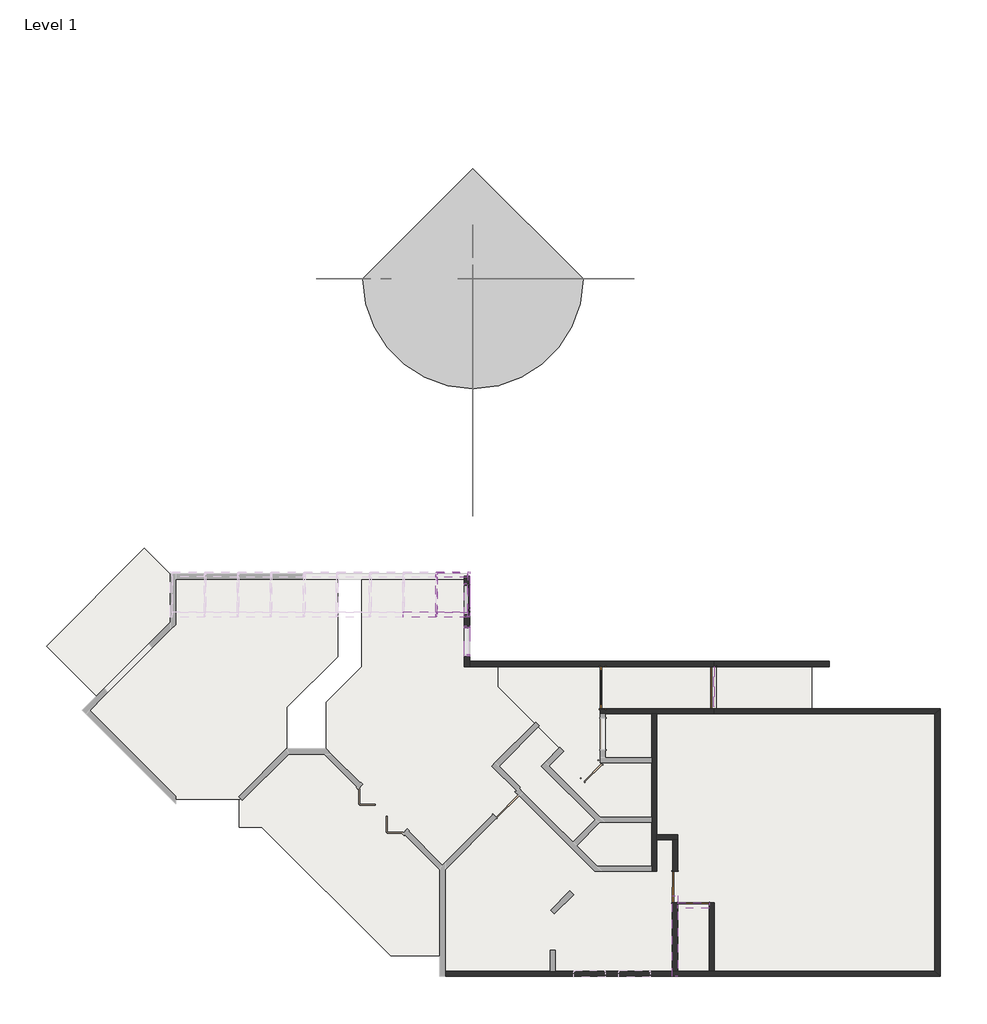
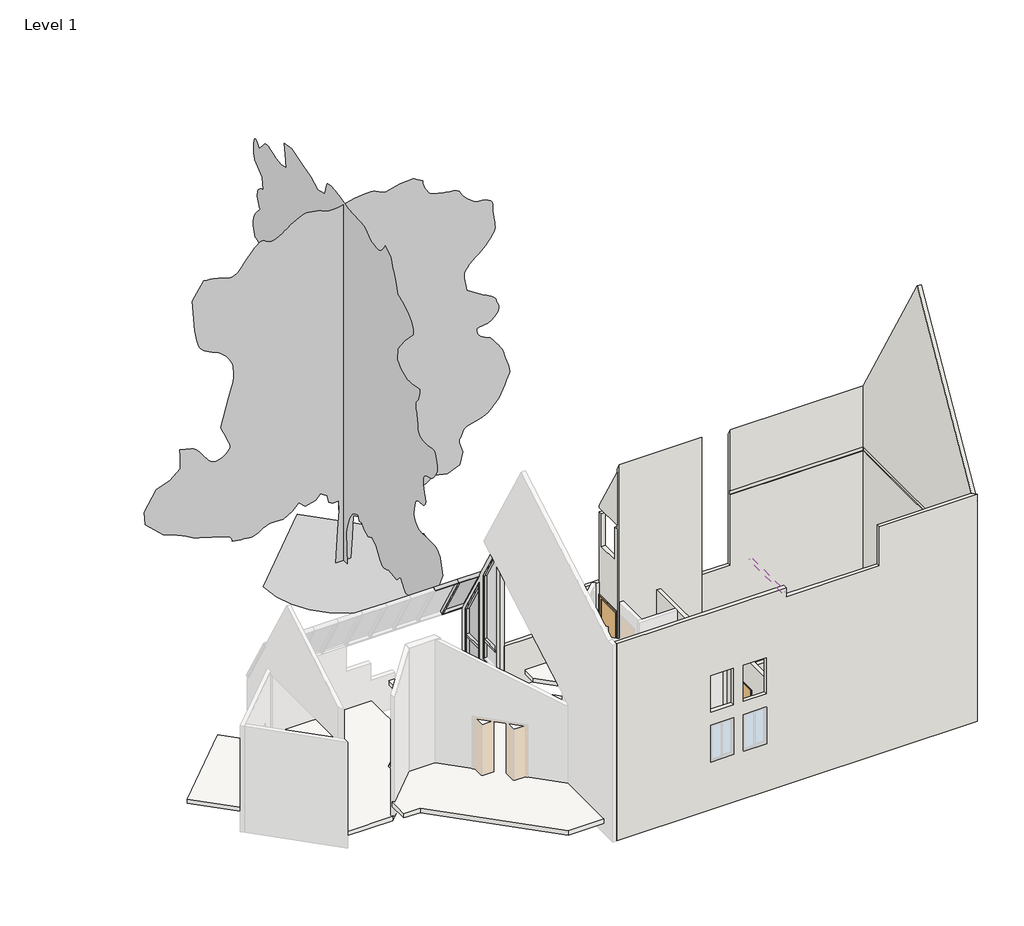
# One storey, part 2 of 2: 16 members, 14 walls, 4 doors, 4 plates, 3 slabs, 1 geographic element, 1 roof.
"""IFC4 building model written with IfcOpenShell, lengths in millimetres."""

from ifc_helpers import new_model, si_unit, frame, origin, place, context, project, spatial, polyline, outline, extrude, faceted_brep, transform, mapped, element, save
from components import door_120x210_caf2434f, m_single_flush_79bdf320, m_single_flush_02f8d604, m_single_flush_75c88c23, m_rpc_tree_conifer_5a218269, rectangular_mullion_50_x_150mm_060a51f6, rectangular_mullion_50_x_150mm_22f0c19d, rectangular_mullion_50_x_150mm_0c4aa80c, rectangular_mullion_50_x_150mm_8b0a0560, rectangular_mullion_50_x_150mm_82a77900, rectangular_mullion_50_x_150mm_25fb4bce, rectangular_mullion_50_x_150mm_666fa4ba, rectangular_mullion_50_x_150mm_cf5372f2, rectangular_mullion_50_x_150mm_7277cebd, rectangular_mullion_50_x_150mm_0d3281e4, rectangular_mullion_50_x_150mm_324a6438, rectangular_mullion_50_x_150mm_11b422a4, rectangular_mullion_9_x_15_9cd6746d, rectangular_mullion_9_x_15_09303af7, system_panel_glazed_92a7b472, system_panel_glazed_613df1e2, system_panel_glazed_8a160abd, system_panel_glazed_ca0c7ec9

model = new_model("IFC4")

# Units and contexts
model_context = context("Model", 3, world=origin())
ifc_project = project(units=[si_unit("LENGTHUNIT", "METRE", prefix="MILLI")], contexts=[model_context])

# Site, building, storey
site = spatial("IfcSite", under=ifc_project)
building = spatial("IfcBuilding", under=site)
storey = spatial("IfcBuildingStorey", under=building, Name="Level 1", Elevation=1200.0)

# Doors
placement = place(None, origin())
door_120x210_shape = door_120x210_caf2434f(model_context)
element("IfcDoor", 1, ObjectType="mydoor : 120x210", at=placement, inside=storey, context=model_context, shape_type="MappedRepresentation", body=[
    mapped(door_120x210_shape, transform((-1152.5128318, 8573.4820421, 1800.0), x_axis=(0.0, 0.9999999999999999, 0.0), y_axis=(-0.9999999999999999, 0.0, 0.0), z_axis=(0.0, 0.0, 1.0))),
])
m_single_flush_shape = m_single_flush_79bdf320(model_context)
element("IfcDoor", 2, ObjectType="M_Single-Flush : 120x210 室內", at=placement, inside=storey, context=model_context, shape_type="MappedRepresentation", body=[
    mapped(m_single_flush_shape, transform((2010.0683821, 8573.5856126, 1800.0), x_axis=(5.272766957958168e-05, 0.9999999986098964, 0.0), y_axis=(-0.9999999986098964, 5.272766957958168e-05, 0.0), z_axis=(0.0, 0.0, 1.0))),
])
m_single_flush_2_shape = m_single_flush_02f8d604(model_context)
element("IfcDoor", 3, ObjectType="M_Single-Flush : 90x210 室內", at=placement, inside=storey, context=model_context, shape_type="MappedRepresentation", body=[
    mapped(m_single_flush_2_shape, transform((1437.2401353, 2348.2782189, 1200.0), x_axis=(-0.9999999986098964, 5.2727669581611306e-05, 0.0), y_axis=(-5.2727669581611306e-05, -0.9999999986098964, 0.0), z_axis=(0.0, 0.0, 1.0))),
])
m_single_flush_3_shape = m_single_flush_75c88c23(model_context)
element("IfcDoor", 4, ObjectType="M_Single-Flush : 90x210 室內", at=placement, inside=storey, context=model_context, shape_type="MappedRepresentation", body=[
    mapped(m_single_flush_3_shape, transform((912.2678181, 2873.3059002, 1200.0), x_axis=(5.272766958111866e-05, 0.9999999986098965, 0.0), y_axis=(-0.9999999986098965, 5.272766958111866e-05, 0.0), z_axis=(0.0, 0.0, 1.0))),
])

# Geographic element
m_rpc_tree_conifer_shape = m_rpc_tree_conifer_5a218269(model_context)
element("IfcGeographicElement", 5, ObjectType="M_RPC Tree - Conifer : Colorado Spruce - 4.0 Meters", at=placement, inside=storey, context=model_context, shape_type="MappedRepresentation", body=[
    mapped(m_rpc_tree_conifer_shape, transform((-4864.3393643, 20260.7487516, -137.7926145), x_axis=(1.0, 0.0, 0.0), y_axis=(0.0, 1.0, 0.0), z_axis=(0.0, 0.0, 1.0))),
])

# Members
rectangular_mullion_50_x_150mm_shape = rectangular_mullion_50_x_150mm_060a51f6(model_context)
element("IfcMember", 6, ObjectType="Rectangular Mullion : 50 x 150mm", at=placement, inside=storey, context=model_context, shape_type="MappedRepresentation", body=[
    mapped(rectangular_mullion_50_x_150mm_shape, transform((-5012.322216, 10648.6183008, 5205.1596989), x_axis=(-2.6363906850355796e-05, -0.4999999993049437, 0.866025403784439), y_axis=(-4.566350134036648e-05, -0.866025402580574, -0.4999999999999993), z_axis=(0.9999999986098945, -5.272770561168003e-05, 6.24052315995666e-11))),
])
rectangular_mullion_50_x_150mm_2_shape = rectangular_mullion_50_x_150mm_22f0c19d(model_context)
element("IfcMember", 7, ObjectType="Rectangular Mullion : 50 x 150mm", at=placement, inside=storey, context=model_context, shape_type="MappedRepresentation", body=[
    mapped(rectangular_mullion_50_x_150mm_2_shape, transform((-5907.3222148, 10648.6654921, 5205.1596988), x_axis=(-2.6363906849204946e-05, -0.4999999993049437, 0.866025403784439), y_axis=(-4.56635013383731e-05, -0.866025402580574, -0.4999999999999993), z_axis=(0.9999999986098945, -5.272770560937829e-05, 6.240523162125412e-11))),
])
element("IfcMember", 8, ObjectType="Rectangular Mullion : 50 x 150mm", at=placement, inside=storey, context=model_context, shape_type="MappedRepresentation", body=[
    mapped(rectangular_mullion_50_x_150mm_shape, transform((-5907.2602598, 11823.6654905, 3170.0), x_axis=(2.636383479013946e-05, 0.4999999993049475, -0.866025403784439), y_axis=(-4.56635013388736e-05, -0.866025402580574, -0.4999999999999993), z_axis=(-0.9999999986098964, 5.2727669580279e-05, 0.0))),
])
rectangular_mullion_50_x_150mm_3_shape = rectangular_mullion_50_x_150mm_0c4aa80c(model_context)
element("IfcMember", 9, ObjectType="Rectangular Mullion : 50 x 150mm", at=placement, inside=storey, context=model_context, shape_type="MappedRepresentation", body=[
    mapped(rectangular_mullion_50_x_150mm_3_shape, transform((-5907.3208966, 10673.6654921, 5161.8584286), x_axis=(-0.9999999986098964, 5.272766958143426e-05, 0.0), y_axis=(-4.566350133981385e-05, -0.8660254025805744, -0.49999999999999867), z_axis=(-2.6363834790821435e-05, -0.4999999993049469, 0.8660254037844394))),
])
rectangular_mullion_50_x_150mm_4_shape = rectangular_mullion_50_x_150mm_8b0a0560(model_context)
element("IfcMember", 10, ObjectType="Rectangular Mullion : 50 x 150mm", at=placement, inside=storey, context=model_context, shape_type="MappedRepresentation", body=[
    mapped(rectangular_mullion_50_x_150mm_4_shape, transform((-4962.2602611, 11823.6156628, 3170.0), x_axis=(0.9999999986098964, -5.272766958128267e-05, 0.0), y_axis=(-4.566350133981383e-05, -0.8660254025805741, -0.49999999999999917), z_axis=(2.636383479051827e-05, 0.4999999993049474, -0.8660254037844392))),
])
rectangular_mullion_50_x_150mm_5_shape = rectangular_mullion_50_x_150mm_82a77900(model_context)
element("IfcMember", 11, ObjectType="Rectangular Mullion : 50 x 150mm", at=placement, inside=storey, context=model_context, shape_type="MappedRepresentation", body=[
    mapped(rectangular_mullion_50_x_150mm_5_shape, transform((-5037.3846077, 10335.3746534, 5357.7090458), x_axis=(0.0, 0.8660254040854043, 0.49999999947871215), y_axis=(1.0, 0.0, 0.0), z_axis=(0.0, 0.49999999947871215, -0.8660254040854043))),
])
rectangular_mullion_50_x_150mm_6_shape = rectangular_mullion_50_x_150mm_25fb4bce(model_context)
element("IfcMember", 12, ObjectType="Rectangular Mullion : 50 x 150mm", at=placement, inside=storey, context=model_context, shape_type="MappedRepresentation", body=[
    mapped(rectangular_mullion_50_x_150mm_6_shape, transform((-5037.3246305, 11548.6196178, 3256.3071226), x_axis=(0.0, 0.8660254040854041, 0.49999999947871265), y_axis=(1.0, 0.0, 0.0), z_axis=(0.0, 0.49999999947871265, -0.8660254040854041))),
])
rectangular_mullion_50_x_150mm_7_shape = rectangular_mullion_50_x_150mm_666fa4ba(model_context)
element("IfcMember", 13, ObjectType="Rectangular Mullion : 50 x 150mm", at=placement, inside=storey, context=model_context, shape_type="MappedRepresentation", body=[
    mapped(rectangular_mullion_50_x_150mm_7_shape, transform((-5037.3846077, 10335.3746534, 2700.0), x_axis=(0.0, 1.0, 0.0), y_axis=(1.0, 0.0, 0.0), z_axis=(0.0, 0.0, -1.0))),
])
rectangular_mullion_50_x_150mm_8_shape = rectangular_mullion_50_x_150mm_cf5372f2(model_context)
element("IfcMember", 14, ObjectType="Rectangular Mullion : 50 x 150mm", at=placement, inside=storey, context=model_context, shape_type="MappedRepresentation", body=[
    mapped(rectangular_mullion_50_x_150mm_8_shape, transform((-5037.3246305, 10602.8285283, 4894.4653451), x_axis=(0.0, -1.0, 0.0), y_axis=(1.0, 0.0, 0.0), z_axis=(0.0, 0.0, 1.0))),
])
rectangular_mullion_50_x_150mm_9_shape = rectangular_mullion_50_x_150mm_7277cebd(model_context)
element("IfcMember", 15, ObjectType="Rectangular Mullion : 50 x 150mm", at=placement, inside=storey, context=model_context, shape_type="MappedRepresentation", body=[
    mapped(rectangular_mullion_50_x_150mm_9_shape, transform((-5037.3246305, 11548.6196178, 2166.0902111), x_axis=(0.0, 1.0, 0.0), y_axis=(1.0, 0.0, 0.0), z_axis=(0.0, 0.0, -1.0))),
])
rectangular_mullion_50_x_150mm_10_shape = rectangular_mullion_50_x_150mm_0d3281e4(model_context)
element("IfcMember", 16, ObjectType="Rectangular Mullion : 50 x 150mm", at=placement, inside=storey, context=model_context, shape_type="MappedRepresentation", body=[
    mapped(rectangular_mullion_50_x_150mm_10_shape, transform((-5037.3846077, 10335.3746534, 1950.0), x_axis=(0.0, 1.0, 0.0), y_axis=(1.0, 0.0, 0.0), z_axis=(0.0, 0.0, -1.0))),
])
rectangular_mullion_50_x_150mm_11_shape = rectangular_mullion_50_x_150mm_324a6438(model_context)
element("IfcMember", 17, ObjectType="Rectangular Mullion : 50 x 150mm", at=placement, inside=storey, context=model_context, shape_type="MappedRepresentation", body=[
    mapped(rectangular_mullion_50_x_150mm_11_shape, transform((-5037.3246305, 10602.8285283, 2166.0902111), x_axis=(0.0, -1.0, 0.0), y_axis=(1.0, 0.0, 0.0), z_axis=(0.0, 0.0, 1.0))),
])
rectangular_mullion_50_x_150mm_12_shape = rectangular_mullion_50_x_150mm_11b422a4(model_context)
element("IfcMember", 18, ObjectType="Rectangular Mullion : 50 x 150mm", at=placement, inside=storey, context=model_context, shape_type="MappedRepresentation", body=[
    mapped(rectangular_mullion_50_x_150mm_12_shape, transform((-5037.3246305, 10602.8285283, 1266.0902111), x_axis=(0.0, 0.0, -1.0), y_axis=(1.0, 0.0, 0.0), z_axis=(0.0, -1.0, 0.0))),
])
element("IfcMember", 19, ObjectType="Rectangular Mullion : 50 x 150mm", at=placement, inside=storey, context=model_context, shape_type="MappedRepresentation", body=[
    mapped(rectangular_mullion_50_x_150mm_11_shape, transform((-5037.3246305, 11548.6196178, 1316.0902111), x_axis=(0.0, 1.0, 0.0), y_axis=(1.0, 0.0, 0.0), z_axis=(0.0, 0.0, -1.0))),
])
rectangular_mullion_9_x_15_shape = rectangular_mullion_9_x_15_9cd6746d(model_context)
element("IfcMember", 20, ObjectType="Rectangular Mullion : 9 x 15", at=placement, inside=storey, context=model_context, shape_type="MappedRepresentation", body=[
    mapped(rectangular_mullion_9_x_15_shape, transform((-5037.3846077, 10285.3746534, 2700.0), x_axis=(0.0, 0.0, 1.0), y_axis=(1.0, 0.0, 0.0), z_axis=(0.0, 1.0, 0.0))),
])
rectangular_mullion_9_x_15_2_shape = rectangular_mullion_9_x_15_09303af7(model_context)
element("IfcMember", 21, ObjectType="Rectangular Mullion : 9 x 15", at=placement, inside=storey, context=model_context, shape_type="MappedRepresentation", body=[
    mapped(rectangular_mullion_9_x_15_2_shape, transform((-5037.3246305, 11498.6196178, 2166.0902111), x_axis=(0.0, 0.0, 1.0), y_axis=(1.0, 0.0, 0.0), z_axis=(0.0, 1.0, 0.0))),
])

# Plates
system_panel_glazed_shape = system_panel_glazed_92a7b472(model_context)
element("IfcPlate", 22, ObjectType="System Panel : Glazed", at=placement, inside=storey, context=model_context, shape_type="MappedRepresentation", body=[
    mapped(system_panel_glazed_shape, transform((1962.5696825, 8598.2492759, 4450.0), x_axis=(-5.2727669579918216e-05, -0.9999999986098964, 0.0), y_axis=(0.9999999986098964, -5.2727669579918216e-05, 0.0), z_axis=(0.0, 0.0, 1.0))),
])
system_panel_glazed_2_shape = system_panel_glazed_613df1e2(model_context)
element("IfcPlate", 23, ObjectType="System Panel : Glazed", at=placement, inside=storey, context=model_context, shape_type="MappedRepresentation", body=[
    mapped(system_panel_glazed_2_shape, transform((-5447.2615786, 11798.6412358, 3213.3012702), x_axis=(-0.9999999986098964, 5.2727669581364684e-05, 0.0), y_axis=(-4.566350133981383e-05, -0.866025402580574, -0.4999999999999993), z_axis=(-2.6363834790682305e-05, -0.4999999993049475, 0.866025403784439))),
])
system_panel_glazed_3_shape = system_panel_glazed_8a160abd(model_context)
element("IfcPlate", 24, ObjectType="System Panel : Glazed", at=placement, inside=storey, context=model_context, shape_type="MappedRepresentation", body=[
    mapped(system_panel_glazed_3_shape, transform((-5037.3246305, 11075.724073, 1316.0902111), x_axis=(0.0, 1.0, 0.0), y_axis=(-1.0, 0.0, 0.0), z_axis=(0.0, 0.0, 1.0))),
])
system_panel_glazed_4_shape = system_panel_glazed_ca0c7ec9(model_context)
element("IfcPlate", 25, ObjectType="System Panel : Glazed", at=placement, inside=storey, context=model_context, shape_type="MappedRepresentation", body=[
    mapped(system_panel_glazed_4_shape, transform((-5037.3246305, 11075.724073, 2211.0902111), x_axis=(0.0, 1.0, 0.0), y_axis=(-1.0, 0.0, 0.0), z_axis=(0.0, 0.0, 1.0))),
])

# Roof
element("IfcRoof", 26, ObjectType="15cm", at=placement, inside=storey, context=model_context, shape_type="SweptSolid", body=[
    extrude(outline(polyline([(2300.0, -8912.6577053), (0.0, -7584.7520861), (0.0, -7400.0), (2300.0, -8727.9056191), (2300.0, -8912.6577053)])), frame((987.1333624, 323.3019492, 1200.0), z_axis=(-0.9999999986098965, 5.2727669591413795e-05, 0.0), x_axis=(5.2727669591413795e-05, 0.9999999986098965, 0.0)), (0.0, 0.0, 1.0), 150.0),
])

# Slabs
element("IfcSlab", 27, ObjectType="Generic 150mm", at=placement, inside=storey, context=model_context, shape_type="SweptSolid", body=[
    extrude(outline(polyline([(-4147.7516387, 9243.5727121), (4812.6036879, 9243.1002534), (4812.5325234, 7893.4378442), (317.5325296, 7893.6748551), (317.369056, 4793.3372705), (-1270.7157257, 4793.4210065), (-2810.1276916, 6332.9953202), (-2346.9483295, 6796.1258401), (-4147.7857229, 8597.1531514), (-4147.7516387, 9243.5727121)])), frame((0.0, 0.0, 1630.0), z_axis=(0.0, 0.0, 1.0), x_axis=(1.0, 0.0, 0.0)), (0.0, 0.0, 1.0), 170.0),
])
element("IfcSlab", 28, ObjectType="Generic 150mm", at=placement, inside=storey, context=model_context, shape_type="SweptSolid", body=[
    extrude(outline(polyline([(-5742.8629373, 393.6568063), (-5742.8352553, 918.6568056), (-7219.3071158, 918.7346565), (-10898.7586152, 4582.2129417), (-11547.2867517, 4582.2471371), (-11547.2457203, 5360.4217291), (-10163.6316357, 6743.8899119), (-9061.4620948, 6743.8317971), (-9061.3879562, 8149.8978123), (-8042.4002488, 9168.7780677), (-8042.264475, 11743.7780642), (-5042.2644792, 11743.6198811), (-5042.3962984, 9243.6198846), (-4117.3962997, 9243.5711115), (-4117.428256, 8637.5068899), (-2290.3790414, 6810.264993), (-2767.7012848, 6332.9930831), (-1258.287737, 4823.4203512), (287.3706379, 4823.3388523), (287.5325297, 7893.6764369), (8407.5325184, 7893.2482882), (8407.1370431, 392.9107098), (-5742.8629373, 393.6568063)])), frame((0.0, 0.0, 1030.0), z_axis=(0.0, 0.0, 1.0), x_axis=(1.0, 0.0, 0.0)), (0.0, 0.0, 1.0), 170.0),
])
element("IfcSlab", 29, ObjectType="Generic 150mm", at=placement, inside=storey, context=model_context, shape_type="SweptSolid", body=[
    extrude(outline(polyline([(-11523.4576696, 5384.2072714), (-13386.7707808, 5384.3055195), (-15919.8038802, 7917.6057549), (-15562.6961277, 8274.6758504), (-17048.5775489, 9760.713974), (-14251.0563196, 12557.9402052), (-13437.2644675, 11744.0625299), (-8723.1223385, 11743.8139642), (-8723.2428238, 9458.763461), (-10182.5597379, 8011.670863), (-10182.6275866, 6724.8959642), (-11523.4576696, 5384.2072714)])), frame((0.0, 0.0, 430.0), z_axis=(0.0, 0.0, 1.0), x_axis=(1.0, 0.0, 0.0)), (0.0, 0.0, 1.0), 170.0),
])

# Walls
element("IfcWall", 30, ObjectType="15cm室內", at=placement, inside=storey, context=model_context, shape_type="Brep", body=[
    faceted_brep([(237.5288161, 7823.2480246, 1200.0), (237.4629114, 6573.3414862, 1200.0), (237.4550023, 6423.3414864, 1200.0), (237.3732744, 4873.3414886, 1200.0), (237.3653652, 4723.3414888, 1200.0), (237.2994556, 3473.3414905, 1200.0), (237.2915465, 3323.3414908, 1200.0), (237.2915465, 3323.3414908, 4400.0), (237.2994556, 3473.3414905, 4400.0), (237.3653652, 4723.3414888, 4400.0), (237.3732744, 4873.3414886, 4400.0), (237.4550023, 6423.3414864, 4400.0), (237.4629114, 6573.3414862, 4400.0), (237.5288161, 7823.2480246, 4400.0), (387.5288163, 7823.2480246, 1200.0), (387.5288163, 7823.2480246, 4400.0), (387.3469103, 4373.3335801, 4400.0), (387.3390012, 4223.3335804, 4400.0), (387.2915463, 3323.3335816, 4400.0), (387.2915463, 3323.3335816, 1200.0), (387.3390012, 4223.3335804, 1200.0), (387.3469103, 4373.3335801, 1200.0)], [[[0, 1, 2, 3, 4, 5, 6, 7, 8, 9, 10, 11, 12, 13]], [[14, 15, 16, 17, 18, 19, 20, 21]], [[6, 5, 4, 3, 2, 1, 0, 14, 21, 20, 19]], [[13, 12, 11, 10, 9, 8, 7, 18, 17, 16, 15]], [[7, 6, 19, 18]], [[0, 13, 15, 14]]]),
])
element("IfcWall", 31, ObjectType="15cm室內", at=placement, inside=storey, context=model_context, shape_type="SweptSolid", body=[
    extrude(outline(polyline([(1887.2361801, 2273.2544916), (987.2361814, 2273.3019465), (987.2440905, 2423.3019463), (1887.2440893, 2423.2544914), (1887.2361801, 2273.2544916)])), frame((0.0, 0.0, 3300.0), z_axis=(0.0, 0.0, 1.0), x_axis=(1.0, 0.0, 0.0)), (0.0, 0.0, 1.0), 1100.0),
])
element("IfcWall", 32, ObjectType="15cm室內", at=placement, inside=storey, context=model_context, shape_type="Brep", body=[
    faceted_brep([(837.1412718, 473.3098581, 4400.0), (837.1743846, 1101.3058834, 4400.0), (837.3390005, 4223.3098529, 4400.0), (837.3390005, 4223.3098529, 1200.0), (837.2915456, 3323.3098542, 1200.0), (837.2915456, 3323.3098542, 3300.0), (837.2440907, 2423.3098554, 3300.0), (837.2440907, 2423.3098554, 1200.0), (837.1412718, 473.3098581, 1200.0), (987.3390003, 4223.3019438, 4400.0), (987.2440905, 2423.3019463, 4400.0), (987.2361814, 2273.3019465, 4400.0), (987.1664752, 951.2979745, 4400.0), (987.1412716, 473.301949, 4400.0), (987.1412716, 473.301949, 1200.0), (987.2440905, 2423.3019463, 1200.0), (987.2440905, 2423.3019463, 3300.0), (987.2915454, 3323.301945, 3300.0), (987.2915454, 3323.301945, 1200.0), (987.3390003, 4223.3019438, 1200.0)], [[[0, 1, 2, 3, 4, 5, 6, 7, 8]], [[9, 10, 11, 12, 13, 14, 15, 16, 17, 18, 19]], [[3, 19, 18, 4]], [[14, 8, 7, 15]], [[2, 1, 0, 13, 12, 11, 10, 9]], [[3, 2, 9, 19]], [[0, 8, 14, 13]], [[17, 5, 4, 18]], [[5, 17, 16, 6]], [[6, 16, 15, 7]]]),
])
element("IfcWall", 33, ObjectType="15cm室內", at=placement, inside=storey, context=model_context, shape_type="Brep", body=[
    faceted_brep([(987.3469095, 4373.3019435, 1200.0), (387.3469103, 4373.3335801, 1200.0), (387.3469103, 4373.3335801, 4400.0), (987.3469095, 4373.3019435, 4400.0), (987.3390003, 4223.3019438, 1200.0), (987.3390003, 4223.3019438, 4400.0), (837.3390005, 4223.3098529, 4400.0), (387.3390012, 4223.3335804, 4400.0), (387.3390012, 4223.3335804, 1200.0), (837.3390005, 4223.3098529, 1200.0)], [[[0, 1, 2, 3]], [[4, 5, 6, 7, 8, 9]], [[1, 0, 4, 9, 8]], [[3, 2, 7, 6, 5]], [[0, 3, 5, 4]], [[2, 1, 8, 7]]]),
])
element("IfcWall", 34, ObjectType="15cm室內", at=placement, inside=storey, context=model_context, shape_type="Brep", body=[
    faceted_brep([(1887.2440893, 2423.2544914, 1200.0), (1887.1412703, 473.2544941, 1200.0), (1887.1412703, 473.2544941, 4400.0), (1887.2361801, 2273.2544916, 4400.0), (1887.2440893, 2423.2544914, 4400.0), (1887.2440893, 2423.2544914, 3300.0), (2037.2440891, 2423.2465822, 1200.0), (2037.2440891, 2423.2465822, 4400.0), (2037.1412701, 473.2465849, 4400.0), (2037.1412701, 473.2465849, 1200.0)], [[[0, 1, 2, 3, 4, 5]], [[6, 7, 8, 9]], [[1, 0, 6, 9]], [[4, 3, 2, 8, 7]], [[0, 5, 4, 7, 6]], [[2, 1, 9, 8]]]),
])
element("IfcWall", 35, ObjectType="15cm室內", at=placement, inside=storey, context=model_context, shape_type="Brep", body=[
    faceted_brep([(2010.0327731, 7973.2480246, 1200.0), (1935.0367276, 7973.2480246, 1200.0), (-1227.5128318, 7973.2480246, 1200.0), (-1227.5128318, 7973.2480246, 1800.0), (-1227.5128318, 7973.2480246, 7330.0), (-1227.5128318, 7973.2480246, 7500.0), (-1227.5128318, 7973.2480246, 9688.2708732), (-1227.5128318, 7973.2480246, 9838.5642657), (2010.0327731, 7973.2480246, 9838.2685904), (2010.0327731, 7823.2480246, 1200.0), (2010.0327731, 7823.2480246, 10098.0762112), (-1227.5128318, 7823.2480246, 10098.3718865), (-1227.5128318, 7823.2480246, 4400.0), (-1227.5128318, 7823.2480246, 1200.0), (-1077.5469453, 7823.2480246, 1200.0), (237.5288161, 7823.2480246, 1200.0), (387.5288163, 7823.2480246, 1200.0)], [[[0, 1, 2, 3, 4, 5, 6, 7, 8]], [[9, 10, 11, 12, 13, 14, 15, 16]], [[2, 1, 0, 9, 16, 15, 14, 13]], [[0, 8, 10, 9]], [[7, 6, 5, 4, 3, 2, 13, 12, 11]], [[8, 7, 11, 10]]]),
])
element("IfcWall", 36, ObjectType="15cm室內", at=placement, inside=storey, context=model_context, shape_type="Brep", body=[
    faceted_brep([(-1077.5128318, 9173.5906209, 7609.2165071), (-1077.5128318, 7973.2480246, 9688.2708732), (-1077.5128318, 7973.2480246, 1800.0), (-1077.5128318, 7973.4820421, 1800.0), (-1077.5128318, 7973.4820421, 3900.0), (-1077.5128318, 9173.5906209, 3900.0), (-1077.5128318, 8130.0752359, 7330.0), (-1077.5128318, 9036.374825, 7330.0), (-1077.5128318, 9036.374825, 5966.1727713), (-1077.5128318, 8130.0752359, 5966.1727713), (-1227.5128318, 7973.2480246, 9688.2708732), (-1227.5128318, 9173.5906209, 7609.2165071), (-1227.5128318, 9173.5906209, 7500.0), (-1227.5128318, 7973.2480246, 7500.0), (-1227.5128318, 9036.374825, 5966.1727713), (-1227.5128318, 9036.374825, 7330.0), (-1227.5128318, 9173.5906209, 7330.0), (-1227.5128318, 9173.5906209, 3900.0), (-1227.5128318, 7973.4820421, 3900.0), (-1227.5128318, 7973.4820421, 1800.0), (-1227.5128318, 7973.2480246, 1800.0), (-1227.5128318, 7973.2480246, 7330.0), (-1227.5128318, 8130.0752359, 7330.0), (-1227.5128318, 8130.0752359, 5966.1727713), (-1095.0564141, 9173.5906209, 7330.0), (-1095.0564141, 9173.5906209, 7500.0), (-1095.0564141, 8130.0752359, 7330.0), (-1095.0564141, 9036.374825, 7330.0), (-1095.0564141, 7973.2480246, 7500.0), (-1095.0564141, 7973.2480246, 7330.0)], [[[0, 1, 2, 3, 4, 5], [6, 7, 8, 9]], [[10, 11, 12, 13]], [[14, 15, 16, 17, 18, 19, 20, 21, 22, 23]], [[2, 20, 19, 3]], [[11, 0, 5, 17, 16, 24, 25, 12]], [[1, 0, 11, 10]], [[7, 6, 26, 27]], [[8, 7, 27, 15, 14]], [[9, 8, 14, 23]], [[6, 9, 23, 22, 26]], [[20, 2, 1, 10, 13, 28, 29, 21]], [[4, 18, 17, 5]], [[18, 4, 3, 19]], [[27, 24, 16, 15]], [[29, 26, 22, 21]], [[25, 28, 13, 12]], [[24, 27, 26, 29, 28, 25]]]),
])
element("IfcWall", 37, ObjectType="15cm", at=placement, inside=storey, context=model_context, shape_type="Brep", body=[
    faceted_brep([(8337.1412614, 472.9144006, 600.0), (-5662.8587192, 473.652588, 600.0), (-5662.8587192, 473.652588, 8773.2050808), (987.1412716, 473.301949, 8773.2050808), (987.1412716, 473.301949, 8685.1904939), (987.1412716, 473.301949, 8400.0), (4637.1412665, 473.109493, 8400.0), (4637.1412665, 473.109493, 10018.3956091), (8337.1412614, 472.9144006, 10018.3956091), (-695.4087261, 473.3906659, 6150.0), (-695.4087261, 473.3906659, 4650.0), (204.5912727, 473.343211, 4650.0), (204.5912727, 473.343211, 6150.0), (-1980.3587243, 473.4584183, 6150.0), (-1980.3587243, 473.4584183, 4650.0), (-1080.3587255, 473.4109634, 4650.0), (-1080.3587255, 473.4109634, 6150.0), (-695.4087261, 473.3906659, 4100.0), (-695.4087261, 473.3906659, 2600.0), (204.5912727, 473.343211, 2600.0), (204.5912727, 473.343211, 4100.0), (-1980.3587243, 473.4584183, 4100.0), (-1980.3587243, 473.4584183, 2600.0), (-1080.3587255, 473.4109634, 2600.0), (-1080.3587255, 473.4109634, 4100.0), (8487.133352, 322.9064917, 600.0), (8487.133352, 322.9064917, 10018.3956091), (4637.1333574, 323.1094932, 10018.3956091), (4637.1333574, 323.1094932, 8400.0), (987.1333624, 323.3019492, 8400.0), (987.1333624, 323.3019492, 8773.2050808), (-5662.8666283, 323.6525882, 8773.2050808), (-5662.8666283, 323.6525882, 600.0), (-695.4166352, 323.3906661, 6150.0), (204.5833635, 323.3432112, 6150.0), (204.5833635, 323.3432112, 4650.0), (-695.4166352, 323.3906661, 4650.0), (-1980.3666334, 323.4584185, 6150.0), (-1080.3666347, 323.4109636, 6150.0), (-1080.3666347, 323.4109636, 4650.0), (-1980.3666334, 323.4584185, 4650.0), (-695.4166352, 323.3906661, 4100.0), (204.5833635, 323.3432112, 4100.0), (204.5833635, 323.3432112, 2600.0), (-695.4166352, 323.3906661, 2600.0), (-1980.3666334, 323.4584185, 4100.0), (-1080.3666347, 323.4109636, 4100.0), (-1080.3666347, 323.4109636, 2600.0), (-1980.3666334, 323.4584185, 2600.0)], [[[0, 1, 2, 3, 4, 5, 6, 7, 8], [9, 10, 11, 12], [13, 14, 15, 16], [17, 18, 19, 20], [21, 22, 23, 24]], [[25, 26, 27, 28, 29, 30, 31, 32], [33, 34, 35, 36], [37, 38, 39, 40], [41, 42, 43, 44], [45, 46, 47, 48]], [[1, 0, 25, 32]], [[3, 2, 31, 30]], [[6, 5, 29, 28]], [[8, 7, 27, 26]], [[0, 8, 26, 25]], [[2, 1, 32, 31]], [[5, 4, 3, 30, 29]], [[7, 6, 28, 27]], [[10, 9, 33, 36]], [[11, 10, 36, 35]], [[12, 11, 35, 34]], [[9, 12, 34, 33]], [[14, 13, 37, 40]], [[15, 14, 40, 39]], [[16, 15, 39, 38]], [[13, 16, 38, 37]], [[18, 17, 41, 44]], [[19, 18, 44, 43]], [[20, 19, 43, 42]], [[17, 20, 42, 41]], [[22, 21, 45, 48]], [[23, 22, 48, 47]], [[24, 23, 47, 46]], [[21, 24, 46, 45]]]),
])
element("IfcWall", 38, ObjectType="15cm", at=placement, inside=storey, context=model_context, shape_type="Brep", body=[
    faceted_brep([(-4962.2642157, 11748.6156629, 1200.0), (-4962.2642157, 11748.6156629, 3149.9038106), (-4962.3256409, 10583.6637593, 5167.6596989), (-4962.3238143, 10618.3047754, 5187.6596989), (-4962.3999894, 9173.6156665, 7689.9346401), (-4962.3999894, 9173.6156665, 3057.4038106), (-4962.3999894, 9173.6156665, 1200.0), (-4962.3920803, 9323.6156663, 1200.0), (-4962.3387328, 10335.3706964, 1900.0), (-4962.3846078, 9465.334532, 1900.0), (-4962.3846078, 9465.334532, 6864.6627427), (-4962.3387328, 10335.3706964, 5357.7158995), (-4962.3246306, 10602.8245737, 1266.0902111), (-4962.3246306, 10602.8245737, 4894.4721946), (-4962.2747612, 11548.6156632, 3256.3139721), (-4962.2747612, 11548.6156632, 1266.0902111), (-5112.2642155, 11748.6235721, 1200.0), (-5112.3999892, 9173.6235757, 1200.0), (-5112.3999892, 9173.6235757, 7689.9346401), (-5112.3238141, 10618.3126845, 5187.6596989), (-5112.3256407, 10583.6716684, 5167.6596989), (-5112.2642155, 11748.6235721, 3149.9038106), (-5112.3387326, 10335.3786055, 1900.0), (-5112.3387326, 10335.3786055, 5357.7158995), (-5112.3846076, 9465.3424412, 6864.6627427), (-5112.3846076, 9465.3424412, 1900.0), (-5112.3246304, 10602.8324829, 1266.0902111), (-5112.274761, 11548.6235724, 1266.0902111), (-5112.274761, 11548.6235724, 3256.3139721), (-5112.3246304, 10602.8324829, 4894.4721946)], [[[0, 1, 2, 3, 4, 5, 6, 7], [8, 9, 10, 11], [12, 13, 14, 15]], [[16, 17, 18, 19, 20, 21], [22, 23, 24, 25], [26, 27, 28, 29]], [[1, 0, 16, 21]], [[2, 1, 21, 20]], [[3, 2, 20, 19]], [[4, 3, 19, 18]], [[0, 7, 6, 17, 16]], [[9, 8, 22, 25]], [[10, 9, 25, 24]], [[11, 10, 24, 23]], [[8, 11, 23, 22]], [[13, 12, 26, 29]], [[14, 13, 29, 28]], [[15, 14, 28, 27]], [[12, 15, 27, 26]], [[6, 5, 4, 18, 17]]]),
])
element("IfcWall", 39, ObjectType="15cm", at=placement, inside=storey, context=model_context, shape_type="Brep", body=[
    faceted_brep([(5312.6079054, 9323.0738895, 1200.0), (2010.10791, 9323.2480226, 1200.0), (2010.10791, 9323.2480226, 3000.0), (2085.1079099, 9323.244068, 3000.0), (5312.6079054, 9323.0738895, 3000.0), (2010.1000009, 9173.2480228, 1200.0), (2085.1000008, 9173.2440683, 1200.0), (5312.5999963, 9173.0738897, 1200.0), (5312.5999963, 9173.0738897, 3000.0), (2085.1000008, 9173.2440683, 3000.0), (2085.1000008, 9173.2440683, 1800.0), (2010.1000009, 9173.2480228, 1800.0), (2010.1000187, 9173.5856117, 1800.0), (2010.1000187, 9173.5856117, 3000.0), (2085.1000186, 9173.5816572, 3000.0), (2085.1000186, 9173.5816572, 1800.0)], [[[0, 1, 2, 3, 4]], [[5, 6, 7, 8, 9, 10, 11]], [[1, 0, 7, 6, 5]], [[2, 1, 5, 11, 12, 13]], [[4, 3, 2, 13, 14, 9, 8]], [[0, 4, 8, 7]], [[14, 15, 10, 9]], [[10, 15, 12, 11]], [[15, 14, 13, 12]]]),
])
element("IfcWall", 40, ObjectType="15cm", at=placement, inside=storey, context=model_context, shape_type="Brep", body=[
    faceted_brep([(8487.5367365, 7973.2440699, 1200.0), (2085.0367454, 7973.5816588, 1200.0), (2010.0367455, 7973.5856134, 1200.0), (2010.0367455, 7973.5856134, 4400.0), (2085.0367454, 7973.5816588, 4400.0), (3127.5367439, 7973.5266902, 4400.0), (3127.5367439, 7973.5266902, 9767.810888), (8487.5367365, 7973.2440699, 9767.810888), (2010.0288363, 7823.5856136, 4400.0), (2010.0288363, 7823.5856136, 1200.0), (8337.5288275, 7823.2519793, 1200.0), (8337.5288275, 7823.2519793, 7330.0), (3127.5288347, 7823.5266904, 7330.0), (3127.5288347, 7823.5266904, 4400.0), (8337.5288275, 7823.2519793, 10027.6185091), (3127.5288347, 7823.5266904, 10027.6185091), (3127.5288347, 7823.5266904, 7500.0), (4637.5288327, 7823.4470717, 7500.0), (4787.5288325, 7823.4391625, 7500.0), (8337.5288275, 7823.2519793, 7500.0), (8362.5301457, 7848.2506611, 7500.0), (8362.5301457, 7848.2506611, 7330.0), (3127.5301529, 7848.5266904, 7330.0), (3127.5301529, 7848.5266904, 7500.0)], [[[0, 1, 2, 3, 4, 5, 6, 7]], [[8, 9, 10, 11, 12, 13]], [[14, 15, 16, 17, 18, 19]], [[2, 1, 0, 10, 9]], [[3, 2, 9, 8]], [[0, 7, 14, 19, 20, 21, 11, 10]], [[3, 8, 13, 5, 4]], [[5, 13, 12, 22, 23, 16, 15, 6]], [[7, 6, 15, 14]], [[21, 22, 12, 11]], [[23, 20, 19, 18, 17, 16]], [[22, 21, 20, 23]]]),
])
element("IfcWall", 41, ObjectType="15cm", at=placement, inside=storey, context=model_context, shape_type="Brep", body=[
    faceted_brep([(8487.133352, 322.9064917, 1200.0), (8487.5367365, 7973.2440699, 1200.0), (8487.5367365, 7973.2440699, 9767.810888), (8487.3351631, 4150.3300899, 16389.2921435), (8487.133352, 322.9064917, 9760.0), (8337.5288275, 7823.2519793, 1200.0), (8337.1412614, 472.9144006, 1200.0), (8337.1412614, 472.9144006, 7330.0), (8337.2414439, 2372.914398, 7330.0), (8337.2493531, 2522.9143977, 7330.0), (8337.420718, 5772.9143932, 7330.0), (8337.4286272, 5922.914393, 7330.0), (8337.5288275, 7823.2519793, 7330.0), (8337.1412614, 472.9144006, 10019.8076211), (8337.3351633, 4150.3379991, 16389.2921435), (8337.5288275, 7823.2519793, 10027.6185091), (8337.5288275, 7823.2519793, 7500.0), (8337.1412614, 472.9144006, 7500.0), (8362.1399431, 447.9130824, 7500.0), (8362.1399431, 447.9130824, 7330.0), (8362.5301457, 7848.2506611, 7330.0), (8362.5301457, 7848.2506611, 7500.0)], [[[0, 1, 2, 3, 4]], [[5, 6, 7, 8, 9, 10, 11, 12]], [[13, 14, 15, 16, 17]], [[1, 0, 6, 5]], [[0, 4, 13, 17, 18, 19, 7, 6]], [[2, 1, 5, 12, 20, 21, 16, 15]], [[13, 4, 3, 14]], [[2, 15, 14, 3]], [[19, 20, 12, 11, 10, 9, 8, 7]], [[21, 18, 17, 16]], [[20, 19, 18, 21]]]),
])
element("IfcWall", 42, ObjectType="15cm", at=placement, inside=storey, context=model_context, shape_type="Brep", body=[
    faceted_brep([(2010.10791, 9323.2480226, 1200.0), (-4962.3920803, 9323.6156663, 1200.0), (-4962.3920803, 9323.6156663, 3057.4038106), (-3047.5201435, 9323.5146996, 3057.4038106), (-3047.5201435, 9323.5146996, 3741.4038106), (-2112.5201448, 9323.4653992, 3741.4038106), (-2112.5201448, 9323.4653992, 4400.0), (2085.1079099, 9323.244068, 4400.0), (2085.1079099, 9323.244068, 3000.0), (2010.10791, 9323.2480226, 3000.0), (-4962.3999894, 9173.6156665, 1200.0), (1935.100001, 9173.2519774, 1200.0), (2010.1000009, 9173.2480228, 1200.0), (2010.1000009, 9173.2480228, 1800.0), (1935.100001, 9173.2519774, 1800.0), (1935.100001, 9173.2519774, 3900.0), (2085.1000008, 9173.2440683, 3900.0), (2085.1000008, 9173.2440683, 4400.0), (1935.100001, 9173.2519774, 4400.0), (-2112.5280539, 9173.4653994, 4400.0), (-2112.5280539, 9173.4653994, 3741.4038106), (-3047.5280526, 9173.5146998, 3741.4038106), (-3047.5280526, 9173.5146998, 3057.4038106), (-4962.3999894, 9173.6156665, 3057.4038106), (2010.1000187, 9173.5856117, 3000.0), (2010.1000187, 9173.5856117, 1800.0), (2085.1000186, 9173.5816572, 3000.0), (2085.1000186, 9173.5816572, 3900.0), (1935.1000188, 9173.5895663, 1800.0), (1935.1000188, 9173.5895663, 3900.0)], [[[0, 1, 2, 3, 4, 5, 6, 7, 8, 9]], [[10, 11, 12, 13, 14, 15, 16, 17, 18, 19, 20, 21, 22, 23]], [[1, 0, 12, 11, 10]], [[3, 2, 23, 22]], [[4, 3, 22, 21]], [[5, 4, 21, 20]], [[6, 5, 20, 19]], [[7, 6, 19, 18, 17]], [[12, 0, 9, 24, 25, 13]], [[9, 8, 26, 24]], [[8, 7, 17, 16, 27, 26]], [[2, 1, 10, 23]], [[28, 29, 15, 14]], [[28, 14, 13, 25]], [[29, 28, 25, 24, 26, 27]], [[29, 27, 16, 15]]]),
])
element("IfcWall", 43, ObjectType="15cm", at=placement, inside=storey, context=model_context, shape_type="Brep", body=[
    faceted_brep([(2085.0367454, 7973.5816588, 1200.0), (2085.1000008, 9173.2440683, 1200.0), (2085.1000008, 9173.2440683, 1800.0), (2085.0367454, 7973.5816588, 1800.0), (2085.1000008, 9173.2440683, 4400.0), (2085.0367454, 7973.5816588, 4400.0), (2085.0367454, 7973.5816588, 3900.0), (2085.1000008, 9173.2440683, 3900.0), (1935.100001, 9173.2519774, 1200.0), (1935.0367276, 7973.2480246, 1200.0), (1935.0367276, 7973.2480246, 4400.0), (1935.100001, 9173.2519774, 4400.0), (1935.100001, 9173.2519774, 3900.0), (1935.0367456, 7973.589568, 3900.0), (1935.0367456, 7973.589568, 1800.0), (1935.100001, 9173.2519774, 1800.0), (2010.0367455, 7973.5856134, 1200.0), (2010.0327731, 7973.2480246, 1200.0), (2010.1000009, 9173.2480228, 1200.0), (2010.0327731, 7973.2480246, 4400.0), (2010.0367455, 7973.5856134, 4400.0), (2010.0367455, 7973.5856134, 3900.0), (2010.0367455, 7973.5856134, 1800.0), (2010.1000009, 9173.2480228, 1800.0)], [[[0, 1, 2, 3]], [[4, 5, 6, 7]], [[8, 9, 10, 11, 12, 13, 14, 15]], [[1, 0, 16, 17, 9, 8, 18]], [[5, 4, 11, 10, 19, 20]], [[5, 20, 21, 6]], [[16, 0, 3, 22]], [[20, 19, 17, 16, 22, 21]], [[10, 9, 17, 19]], [[1, 18, 8, 15, 23, 2]], [[11, 4, 7, 12]], [[14, 22, 3, 2, 23, 15]], [[21, 13, 12, 7, 6]], [[22, 14, 13, 21]]]),
])

save(model, "model.ifc")
